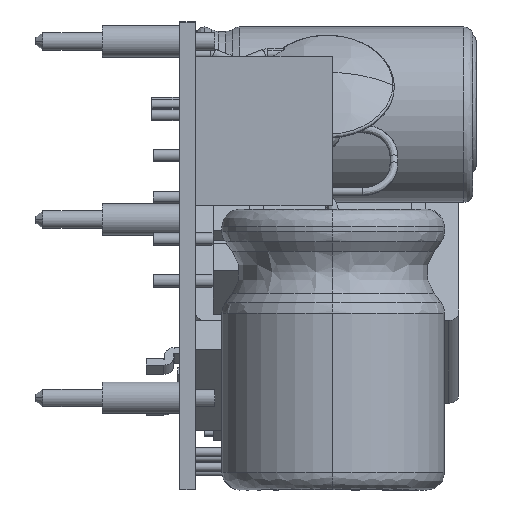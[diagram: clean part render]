
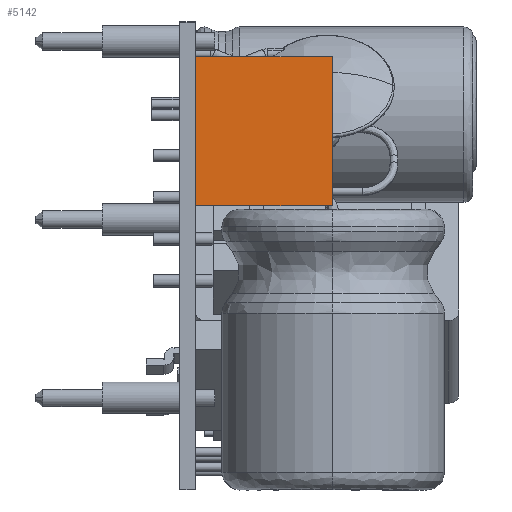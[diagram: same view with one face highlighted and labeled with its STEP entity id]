
A CAD part, left-side view. The second image highlights one B-rep face of the part: STEP entity #5142.
In plain terms, the highlighted planar face has unit normal (-1, 0, 0).
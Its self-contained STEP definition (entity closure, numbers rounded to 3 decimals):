
#233 = DIRECTION ( 'NONE',  ( 0., 0., 1. ) ) ;
#995 = CARTESIAN_POINT ( 'NONE',  ( -22.203, -13.136, 11.367 ) ) ;
#2513 = VERTEX_POINT ( 'NONE', #16276 ) ;
#2781 = VECTOR ( 'NONE', #8417, 1000. ) ;
#2999 = EDGE_CURVE ( 'NONE', #2513, #15619, #4466, .T. ) ;
#3914 = EDGE_CURVE ( 'NONE', #17409, #5042, #12527, .T. ) ;
#4466 = LINE ( 'NONE', #995, #20246 ) ;
#4653 = AXIS2_PLACEMENT_3D ( 'NONE', #10067, #24773, #8117 ) ;
#4691 = EDGE_LOOP ( 'NONE', ( #15480, #10861, #12343, #27049 ) ) ;
#5042 = VERTEX_POINT ( 'NONE', #14090 ) ;
#5142 = ADVANCED_FACE ( 'NONE', ( #19296 ), #16205, .F. ) ;
#6593 = VECTOR ( 'NONE', #233, 1000. ) ;
#6620 = CARTESIAN_POINT ( 'NONE',  ( -22.203, -13.136, 2.858 ) ) ;
#6736 = DIRECTION ( 'NONE',  ( 0., 1., 0. ) ) ;
#8117 = DIRECTION ( 'NONE',  ( 0., 1., 0. ) ) ;
#8417 = DIRECTION ( 'NONE',  ( 0., 1., 0. ) ) ;
#9926 = VECTOR ( 'NONE', #6736, 1000. ) ;
#10067 = CARTESIAN_POINT ( 'NONE',  ( -22.203, -13.136, 11.367 ) ) ;
#10861 = ORIENTED_EDGE ( 'NONE', *, *, #2999, .F. ) ;
#10885 = CARTESIAN_POINT ( 'NONE',  ( -22.203, -5.336, 2.858 ) ) ;
#12343 = ORIENTED_EDGE ( 'NONE', *, *, #21968, .T. ) ;
#12527 = LINE ( 'NONE', #12842, #6593 ) ;
#12842 = CARTESIAN_POINT ( 'NONE',  ( -22.203, -5.336, -13.335 ) ) ;
#14090 = CARTESIAN_POINT ( 'NONE',  ( -22.203, -5.336, 11.367 ) ) ;
#15480 = ORIENTED_EDGE ( 'NONE', *, *, #17428, .F. ) ;
#15619 = VERTEX_POINT ( 'NONE', #6620 ) ;
#16205 = PLANE ( 'NONE',  #4653 ) ;
#16276 = CARTESIAN_POINT ( 'NONE',  ( -22.203, -13.136, 11.367 ) ) ;
#17409 = VERTEX_POINT ( 'NONE', #10885 ) ;
#17428 = EDGE_CURVE ( 'NONE', #15619, #17409, #26361, .T. ) ;
#19296 = FACE_OUTER_BOUND ( 'NONE', #4691, .T. ) ;
#19763 = DIRECTION ( 'NONE',  ( 0., 0., -1. ) ) ;
#20246 = VECTOR ( 'NONE', #19763, 1000. ) ;
#21968 = EDGE_CURVE ( 'NONE', #2513, #5042, #25190, .T. ) ;
#23394 = CARTESIAN_POINT ( 'NONE',  ( -22.203, -13.136, 2.858 ) ) ;
#24773 = DIRECTION ( 'NONE',  ( 1., 0., 0. ) ) ;
#25190 = LINE ( 'NONE', #27174, #2781 ) ;
#26361 = LINE ( 'NONE', #23394, #9926 ) ;
#27049 = ORIENTED_EDGE ( 'NONE', *, *, #3914, .F. ) ;
#27174 = CARTESIAN_POINT ( 'NONE',  ( -22.203, -13.136, 11.367 ) ) ;
